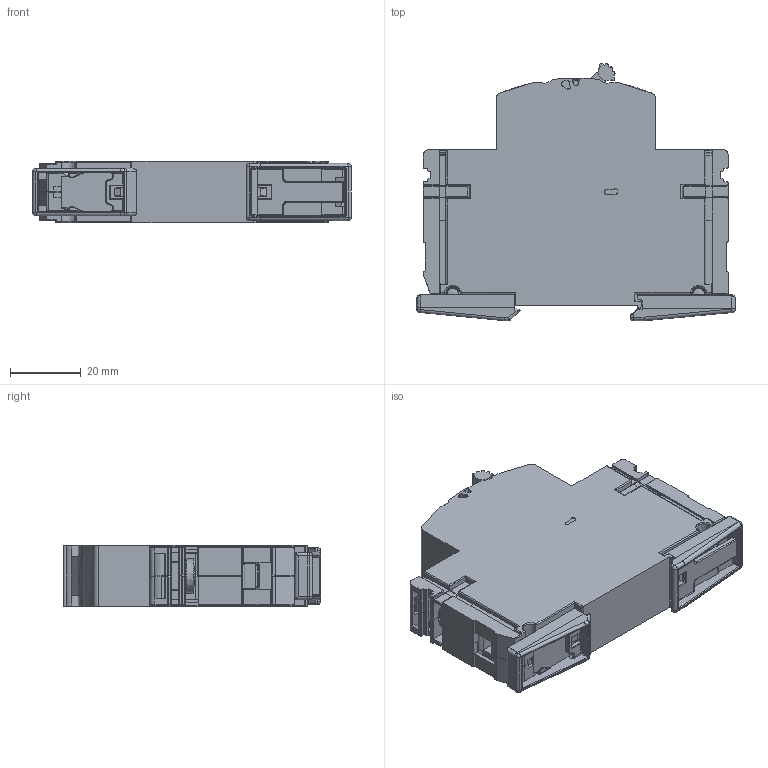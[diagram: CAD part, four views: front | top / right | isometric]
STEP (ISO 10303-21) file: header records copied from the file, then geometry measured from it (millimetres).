
FILE_DESCRIPTION (( 'STEP AP214' ), '1' );
FILE_NAME ('APN-1_zj2.step', '2013-06-24T11:19:38', ( 'Siemens' ), ( 'Siemens' ), 'SwSTEP 2.0', 'SolidWorks 2011', '' );
FILE_SCHEMA (( 'AUTOMOTIVE_DESIGN' ));
Length unit declared in the file: millimetre
Products named in the file (1): APN-1_zj2
Bounding box: 90.21 x 72.92 x 17.55 mm (x, y, z)
Volume: 76569.3 mm3; surface area: 22224.8 mm2
Topology: 1 solids, 4 shells, 1778 faces, 5029 edges, 3184 vertices
Faces by surface type: plane 933, cylinder 575, torus 105, bspline 93, cone 37, sphere 35
Entity records: 86637 total; most frequent: CARTESIAN_POINT 24520, ORIENTED_EDGE 9946, DIRECTION 7231, EDGE_CURVE 4973, VERTEX_POINT 3180, VECTOR 3037, LINE 3037, AXIS2_PLACEMENT_3D 2097
